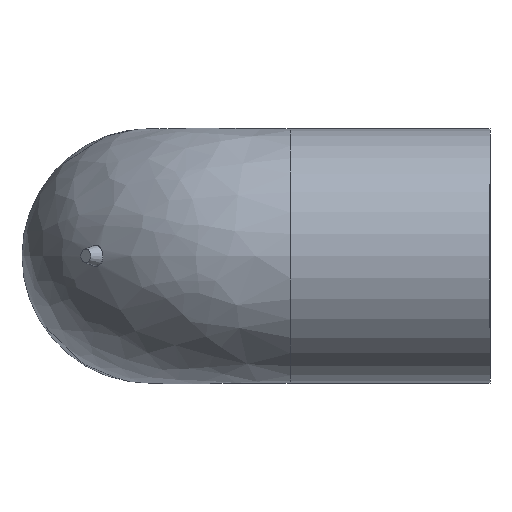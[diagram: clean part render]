
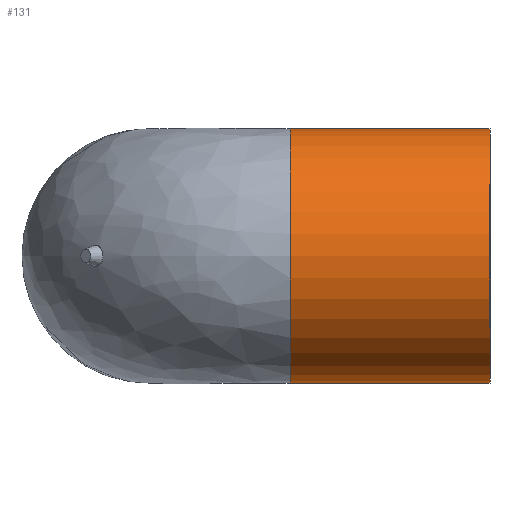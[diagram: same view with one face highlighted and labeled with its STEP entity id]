
A CAD part, left-side view. The second image highlights one B-rep face of the part: STEP entity #131.
In plain terms, the highlighted cylindrical face has radius 28 mm (diameter 56 mm), a full revolution.
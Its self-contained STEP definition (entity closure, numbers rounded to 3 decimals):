
#18=CYLINDRICAL_SURFACE($,#150,28.);
#26=FACE_BOUND($,#60,.T.);
#38=CIRCLE($,#149,28.);
#39=CIRCLE($,#151,28.);
#47=FACE_OUTER_BOUND($,#59,.T.);
#59=EDGE_LOOP($,(#117));
#60=EDGE_LOOP($,(#118));
#79=VERTEX_POINT($,#983);
#80=VERTEX_POINT($,#992);
#93=EDGE_CURVE($,#79,#79,#38,.T.);
#94=EDGE_CURVE($,#80,#80,#39,.T.);
#117=ORIENTED_EDGE($,*,*,#94,.F.);
#118=ORIENTED_EDGE($,*,*,#93,.T.);
#131=ADVANCED_FACE($,(#47,#26),#18,.T.);
#149=AXIS2_PLACEMENT_3D($,#990,#180,#181);
#150=AXIS2_PLACEMENT_3D($,#991,#182,#183);
#151=AXIS2_PLACEMENT_3D($,#993,#184,#185);
#180=DIRECTION('center_axis',(0.,-1.,0.));
#181=DIRECTION('ref_axis',(1.,0.,0.));
#182=DIRECTION('center_axis',(0.,1.,0.));
#183=DIRECTION('ref_axis',(1.,0.,0.));
#184=DIRECTION('center_axis',(0.,-1.,0.));
#185=DIRECTION('ref_axis',(1.,0.,0.));
#983=CARTESIAN_POINT('',(-28.,44.,0.));
#990=CARTESIAN_POINT('Origin',(0.,44.,0.));
#991=CARTESIAN_POINT('Origin',(0.,0.,0.));
#992=CARTESIAN_POINT('',(-28.,0.,0.));
#993=CARTESIAN_POINT('Origin',(0.,0.,0.));
